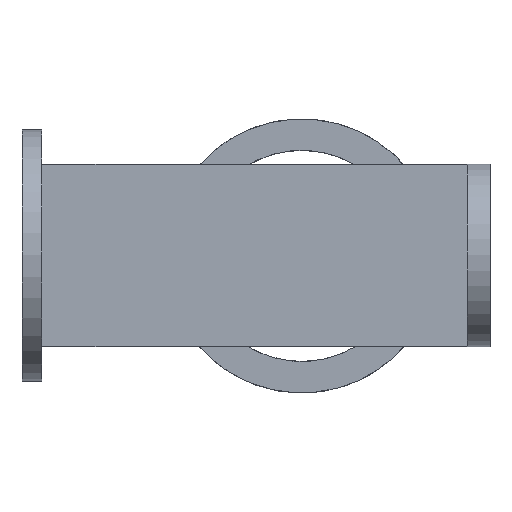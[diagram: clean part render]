
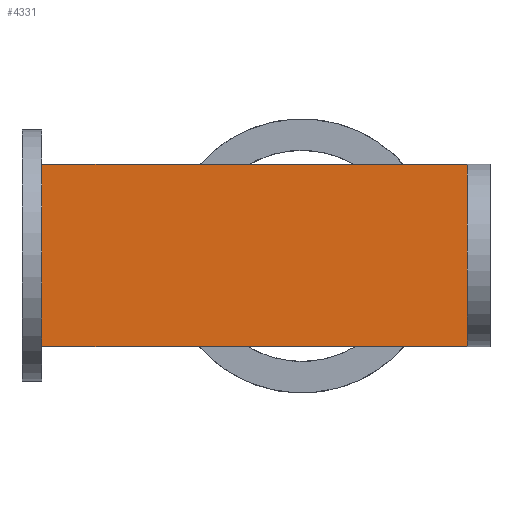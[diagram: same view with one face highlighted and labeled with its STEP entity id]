
A CAD part, top view. The second image highlights one B-rep face of the part: STEP entity #4331.
In plain terms, the highlighted planar face has unit normal (0, 0, 1).
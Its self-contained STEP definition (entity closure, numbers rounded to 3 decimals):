
#102 = PLANE('',#103);
#103 = AXIS2_PLACEMENT_3D('',#104,#105,#106);
#104 = CARTESIAN_POINT('',(-45.5,0.,0.
    ));
#105 = DIRECTION('',(1.,0.,0.));
#106 = DIRECTION('',(-0.,0.,1.));
#403 = PLANE('',#404);
#404 = AXIS2_PLACEMENT_3D('',#405,#406,#407);
#405 = CARTESIAN_POINT('',(-49.,-16.,-20.5));
#406 = DIRECTION('',(0.,1.,0.));
#407 = DIRECTION('',(0.,0.,1.));
#459 = PLANE('',#460);
#460 = AXIS2_PLACEMENT_3D('',#461,#462,#463);
#461 = CARTESIAN_POINT('',(-49.,16.,-20.5));
#462 = DIRECTION('',(0.,1.,0.));
#463 = DIRECTION('',(0.,0.,1.));
#3995 = EDGE_CURVE('',#3996,#3998,#4000,.T.);
#3996 = VERTEX_POINT('',#3997);
#3997 = CARTESIAN_POINT('',(-45.5,-16.,-16.5));
#3998 = VERTEX_POINT('',#3999);
#3999 = CARTESIAN_POINT('',(29.,-16.,-16.5));
#4000 = SURFACE_CURVE('',#4001,(#4005,#4012),.PCURVE_S1.);
#4001 = LINE('',#4002,#4003);
#4002 = CARTESIAN_POINT('',(-49.,-16.,-16.5));
#4003 = VECTOR('',#4004,1.);
#4004 = DIRECTION('',(1.,0.,0.));
#4005 = PCURVE('',#403,#4006);
#4006 = DEFINITIONAL_REPRESENTATION('',(#4007),#4011);
#4007 = LINE('',#4008,#4009);
#4008 = CARTESIAN_POINT('',(4.,0.));
#4009 = VECTOR('',#4010,1.);
#4010 = DIRECTION('',(0.,1.));
#4011 = ( GEOMETRIC_REPRESENTATION_CONTEXT(2) 
PARAMETRIC_REPRESENTATION_CONTEXT() REPRESENTATION_CONTEXT('2D SPACE',''
  ) );
#4012 = PCURVE('',#4013,#4018);
#4013 = PLANE('',#4014);
#4014 = AXIS2_PLACEMENT_3D('',#4015,#4016,#4017);
#4015 = CARTESIAN_POINT('',(-49.,-16.,-16.5));
#4016 = DIRECTION('',(0.,0.,1.));
#4017 = DIRECTION('',(1.,0.,0.));
#4018 = DEFINITIONAL_REPRESENTATION('',(#4019),#4023);
#4019 = LINE('',#4020,#4021);
#4020 = CARTESIAN_POINT('',(0.,0.));
#4021 = VECTOR('',#4022,1.);
#4022 = DIRECTION('',(1.,0.));
#4023 = ( GEOMETRIC_REPRESENTATION_CONTEXT(2) 
PARAMETRIC_REPRESENTATION_CONTEXT() REPRESENTATION_CONTEXT('2D SPACE',''
  ) );
#4041 = PLANE('',#4042);
#4042 = AXIS2_PLACEMENT_3D('',#4043,#4044,#4045);
#4043 = CARTESIAN_POINT('',(29.,0.,0.)
  );
#4044 = DIRECTION('',(1.,0.,0.));
#4045 = DIRECTION('',(-0.,0.,1.));
#4200 = VERTEX_POINT('',#4201);
#4201 = CARTESIAN_POINT('',(29.,16.,-16.5));
#4224 = EDGE_CURVE('',#4200,#3998,#4225,.T.);
#4225 = SURFACE_CURVE('',#4226,(#4230,#4236),.PCURVE_S1.);
#4226 = LINE('',#4227,#4228);
#4227 = CARTESIAN_POINT('',(29.,-8.,-16.5));
#4228 = VECTOR('',#4229,1.);
#4229 = DIRECTION('',(0.,-1.,0.));
#4230 = PCURVE('',#4041,#4231);
#4231 = DEFINITIONAL_REPRESENTATION('',(#4232),#4235);
#4232 = B_SPLINE_CURVE_WITH_KNOTS('',1,(#4233,#4234),.UNSPECIFIED.,.F.,
  .F.,(2,2),(-24.,8.),.PIECEWISE_BEZIER_KNOTS.);
#4233 = CARTESIAN_POINT('',(-16.5,-16.));
#4234 = CARTESIAN_POINT('',(-16.5,16.));
#4235 = ( GEOMETRIC_REPRESENTATION_CONTEXT(2) 
PARAMETRIC_REPRESENTATION_CONTEXT() REPRESENTATION_CONTEXT('2D SPACE',''
  ) );
#4236 = PCURVE('',#4013,#4237);
#4237 = DEFINITIONAL_REPRESENTATION('',(#4238),#4241);
#4238 = B_SPLINE_CURVE_WITH_KNOTS('',1,(#4239,#4240),.UNSPECIFIED.,.F.,
  .F.,(2,2),(-24.,8.),.PIECEWISE_BEZIER_KNOTS.);
#4239 = CARTESIAN_POINT('',(78.,32.));
#4240 = CARTESIAN_POINT('',(78.,0.));
#4241 = ( GEOMETRIC_REPRESENTATION_CONTEXT(2) 
PARAMETRIC_REPRESENTATION_CONTEXT() REPRESENTATION_CONTEXT('2D SPACE',''
  ) );
#4331 = ADVANCED_FACE('',(#4332),#4013,.T.);
#4332 = FACE_BOUND('',#4333,.T.);
#4333 = EDGE_LOOP('',(#4334,#4357,#4376,#4377));
#4334 = ORIENTED_EDGE('',*,*,#4335,.F.);
#4335 = EDGE_CURVE('',#4336,#4200,#4338,.T.);
#4336 = VERTEX_POINT('',#4337);
#4337 = CARTESIAN_POINT('',(-45.5,16.,-16.5));
#4338 = SURFACE_CURVE('',#4339,(#4343,#4350),.PCURVE_S1.);
#4339 = LINE('',#4340,#4341);
#4340 = CARTESIAN_POINT('',(-49.,16.,-16.5));
#4341 = VECTOR('',#4342,1.);
#4342 = DIRECTION('',(1.,0.,0.));
#4343 = PCURVE('',#4013,#4344);
#4344 = DEFINITIONAL_REPRESENTATION('',(#4345),#4349);
#4345 = LINE('',#4346,#4347);
#4346 = CARTESIAN_POINT('',(0.,32.));
#4347 = VECTOR('',#4348,1.);
#4348 = DIRECTION('',(1.,0.));
#4349 = ( GEOMETRIC_REPRESENTATION_CONTEXT(2) 
PARAMETRIC_REPRESENTATION_CONTEXT() REPRESENTATION_CONTEXT('2D SPACE',''
  ) );
#4350 = PCURVE('',#459,#4351);
#4351 = DEFINITIONAL_REPRESENTATION('',(#4352),#4356);
#4352 = LINE('',#4353,#4354);
#4353 = CARTESIAN_POINT('',(4.,0.));
#4354 = VECTOR('',#4355,1.);
#4355 = DIRECTION('',(0.,1.));
#4356 = ( GEOMETRIC_REPRESENTATION_CONTEXT(2) 
PARAMETRIC_REPRESENTATION_CONTEXT() REPRESENTATION_CONTEXT('2D SPACE',''
  ) );
#4357 = ORIENTED_EDGE('',*,*,#4358,.T.);
#4358 = EDGE_CURVE('',#4336,#3996,#4359,.T.);
#4359 = SURFACE_CURVE('',#4360,(#4364,#4370),.PCURVE_S1.);
#4360 = LINE('',#4361,#4362);
#4361 = CARTESIAN_POINT('',(-45.5,-8.,-16.5));
#4362 = VECTOR('',#4363,1.);
#4363 = DIRECTION('',(0.,-1.,0.));
#4364 = PCURVE('',#4013,#4365);
#4365 = DEFINITIONAL_REPRESENTATION('',(#4366),#4369);
#4366 = B_SPLINE_CURVE_WITH_KNOTS('',1,(#4367,#4368),.UNSPECIFIED.,.F.,
  .F.,(2,2),(-24.,8.),.PIECEWISE_BEZIER_KNOTS.);
#4367 = CARTESIAN_POINT('',(3.5,32.));
#4368 = CARTESIAN_POINT('',(3.5,0.));
#4369 = ( GEOMETRIC_REPRESENTATION_CONTEXT(2) 
PARAMETRIC_REPRESENTATION_CONTEXT() REPRESENTATION_CONTEXT('2D SPACE',''
  ) );
#4370 = PCURVE('',#102,#4371);
#4371 = DEFINITIONAL_REPRESENTATION('',(#4372),#4375);
#4372 = B_SPLINE_CURVE_WITH_KNOTS('',1,(#4373,#4374),.UNSPECIFIED.,.F.,
  .F.,(2,2),(-24.,8.),.PIECEWISE_BEZIER_KNOTS.);
#4373 = CARTESIAN_POINT('',(-16.5,-16.));
#4374 = CARTESIAN_POINT('',(-16.5,16.));
#4375 = ( GEOMETRIC_REPRESENTATION_CONTEXT(2) 
PARAMETRIC_REPRESENTATION_CONTEXT() REPRESENTATION_CONTEXT('2D SPACE',''
  ) );
#4376 = ORIENTED_EDGE('',*,*,#3995,.T.);
#4377 = ORIENTED_EDGE('',*,*,#4224,.F.);
